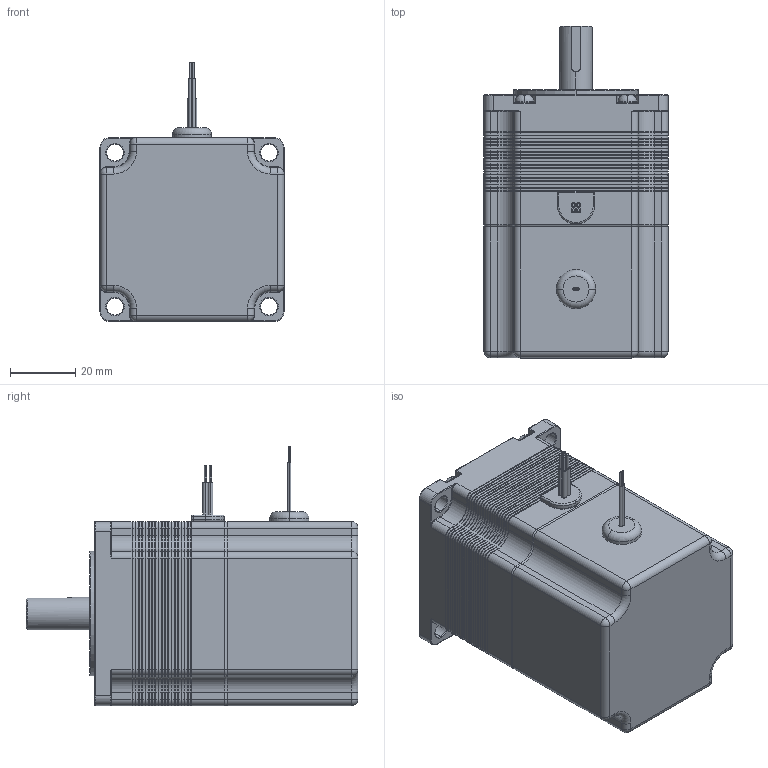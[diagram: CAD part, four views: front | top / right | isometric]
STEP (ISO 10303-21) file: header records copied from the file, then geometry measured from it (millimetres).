
FILE_DESCRIPTION (( 'STEP AP214' ), '1' );
FILE_NAME ('Nema 23 Stepper Motor length 41mm_10mm_key_BRK.STEP', '2020-11-11T13:34:01', ( 'Moofasta' ), ( '' ), 'SwSTEP 2.0', 'SolidWorks 2020', '' );
FILE_SCHEMA (( 'AUTOMOTIVE_DESIGN' ));
Length unit declared in the file: millimetre
Products named in the file (1): Nema 23 Stepper Motor length 41mm_10mm_key_BRK
Bounding box: 56.3 x 101.5 x 79.3 mm (x, y, z)
Volume: 233469.8 mm3; surface area: 134032.9 mm2
Topology: 34 solids, 35 shells, 1880 faces, 4285 edges, 2459 vertices
Faces by surface type: plane 877, cone 460, cylinder 415, torus 100, sphere 20, bspline 8
Entity records: 69020 total; most frequent: DIRECTION 9370, CARTESIAN_POINT 9077, ORIENTED_EDGE 8514, EDGE_CURVE 4257, AXIS2_PLACEMENT_3D 3316, VECTOR 2738, LINE 2738, VERTEX_POINT 2459
